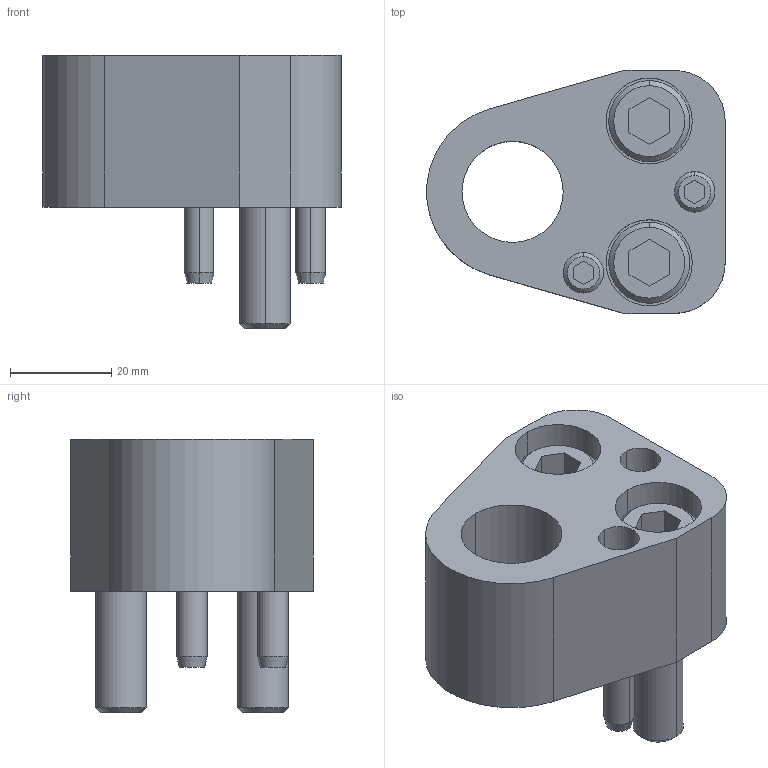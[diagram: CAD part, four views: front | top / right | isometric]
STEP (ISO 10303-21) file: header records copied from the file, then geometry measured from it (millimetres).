
FILE_DESCRIPTION(/* description */ (''),/* implementation_level */ '2;1');
FILE_NAME(/* name */ '3d_apar20_02869_r00.stp',/* time_stamp */ '2011-01-10T14:17:45+09:00',/* author */ ('MISUMI'),/* organization */ (''),/* preprocessor_version */ 'ST-DEVELOPER v11',/* originating_system */ 'UGS - NX 5.0',/* authorisation */ '');
FILE_SCHEMA (('CONFIG_CONTROL_DESIGN'));
Length unit declared in the file: millimetre
Products named in the file (1): 3d_apar20_02869_r00
Bounding box: 58.94 x 48 x 54 mm (x, y, z)
Volume: 57576.1 mm3; surface area: 21343 mm2
Topology: 7 solids, 7 shells, 135 faces, 292 edges, 186 vertices
Faces by surface type: plane 60, cylinder 49, cone 26
Entity records: 3816 total; most frequent: DIRECTION 684, CARTESIAN_POINT 662, ORIENTED_EDGE 584, EDGE_CURVE 292, AXIS2_PLACEMENT_3D 260, VERTEX_POINT 186, LINE 164, VECTOR 164
